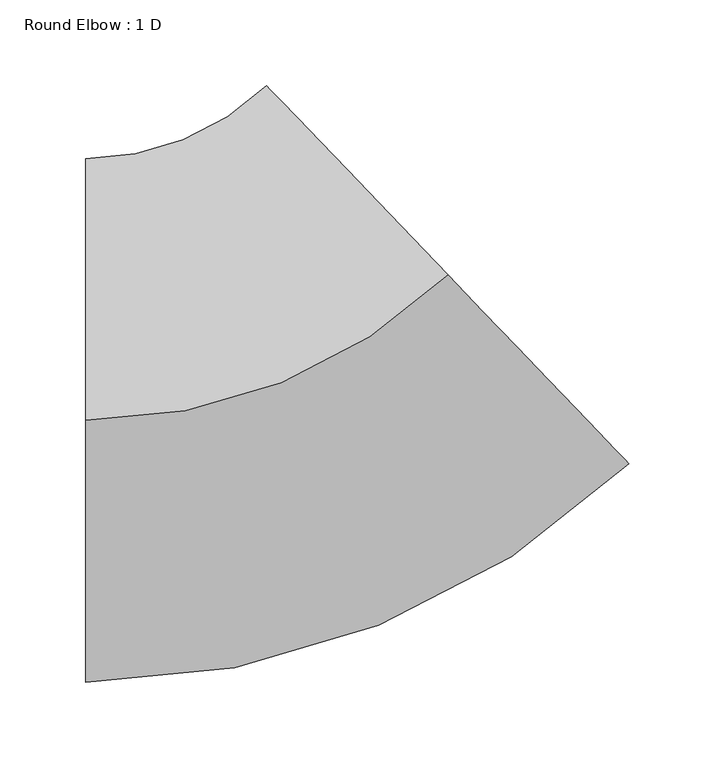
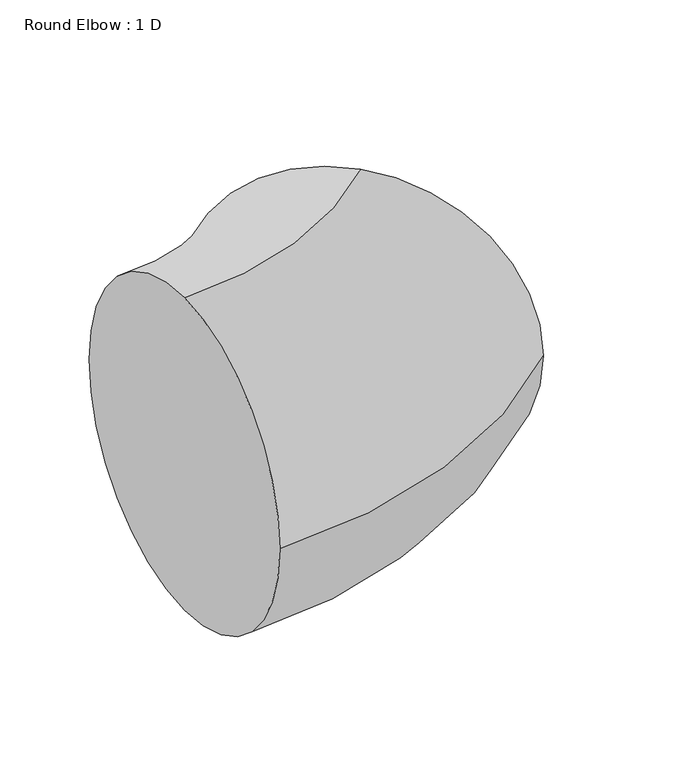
"""IFC4 building model written with IfcOpenShell, lengths in millimetres: duct fitting geometry, Round Elbow : 1 D."""

from ifc_helpers import new_model, si_unit, point, frame, origin, place, context, project, spatial, circle_curve, ellipse_curve, trimmed, source, transform, mapped, element, save
from ifc_brep_helpers import plane_surface, revolved_surface, advanced_brep


def round_elbow_1_d_ed39a6e1(model_context):
    return source(origin(), model_context, "Body", "AdvancedBrep", [
        advanced_brep(
        [(-122.5489307, 0.0, 152.4), (-122.5489307, 152.4, 0.0), (-122.5489307, 0.0, -152.4), (-122.5489307, -152.4, 0.0), (88.4413053, 84.8314561, 152.4), (193.9364233, -25.1528159, 0.0), (88.4413053, 84.8314561, -152.4), (-17.0538127, 194.815728, 0.0)],
        [
            (0, 1, circle_curve(frame((-122.5489307, 0.0, 0.0), z_axis=(-1.0, 0.0, 0.0), x_axis=(0.0, 1.0, 0.0)), 152.4)),
            (1, 2, circle_curve(frame((-122.5489307, 0.0, 0.0), z_axis=(-1.0, 0.0, 0.0), x_axis=(0.0, 1.0, 0.0)), 152.4)),
            (2, 3, circle_curve(frame((-122.5489307, 0.0, 0.0), z_axis=(-1.0, 0.0, 0.0), x_axis=(0.0, 1.0, 0.0)), 152.4)),
            (3, 0, circle_curve(frame((-122.5489307, 0.0, 0.0), z_axis=(-1.0, 0.0, 0.0), x_axis=(0.0, 1.0, 0.0)), 152.4)),
            (4, 5, circle_curve(frame((88.4413053, 84.8314561, 0.0), z_axis=(0.7216815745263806, 0.692225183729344, 0.0), x_axis=(-0.692225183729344, 0.7216815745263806, 0.0)), 152.4)),
            (5, 6, circle_curve(frame((88.4413053, 84.8314561, 0.0), z_axis=(0.7216815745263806, 0.692225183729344, 0.0), x_axis=(-0.692225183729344, 0.7216815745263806, 0.0)), 152.4)),
            (6, 7, circle_curve(frame((88.4413053, 84.8314561, 0.0), z_axis=(0.7216815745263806, 0.692225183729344, 0.0), x_axis=(-0.692225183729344, 0.7216815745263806, 0.0)), 152.4)),
            (7, 4, circle_curve(frame((88.4413053, 84.8314561, 0.0), z_axis=(0.7216815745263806, 0.692225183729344, 0.0), x_axis=(-0.692225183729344, 0.7216815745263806, 0.0)), 152.4)),
            (7, 1, circle_curve(frame((-122.5489307, 304.8, 0.0), z_axis=(0.0, 0.0, -1.0), x_axis=(0.0, -1.0, 0.0)), 152.4)),
            (0, 4, circle_curve(frame((-122.5489307, 304.8, 152.4), z_axis=(0.0, 0.0, 1.0), x_axis=(0.0, -1.0, 0.0)), 304.8)),
            (6, 2, circle_curve(frame((-122.5489307, 304.8, -152.4), z_axis=(0.0, 0.0, -1.0), x_axis=(0.0, -1.0, 0.0)), 304.8)),
            (5, 3, circle_curve(frame((-122.5489307, 304.8, 0.0), z_axis=(0.0, 0.0, -1.0), x_axis=(0.0, -1.0, 0.0)), 457.2)),
        ],
        [
            plane_surface(frame((-122.5489307, 0.0, 0.0), z_axis=(-1.0, 0.0, 0.0), x_axis=(0.0, 0.0, 1.0))),
            plane_surface(frame((88.4413053, 84.8314561, 0.0), z_axis=(0.7216815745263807, 0.692225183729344, 0.0), x_axis=(0.0, 0.0, 1.0))),
            revolved_surface(trimmed(ellipse_curve(frame((-122.5489307, 0.0, 0.0), z_axis=(-1.0, 0.0, 0.0), x_axis=(0.0, 1.0, 0.0)), 152.4, 152.4), [point((-122.5489307, 0.0, 152.4))], [point((-122.5489307, 152.4, 0.0))], True, "CARTESIAN"), (-122.5489307, 304.8, 0.0), (0.0, 0.0, 1.0)),
            revolved_surface(trimmed(ellipse_curve(frame((-122.5489307, 0.0, 0.0), z_axis=(-1.0, 0.0, 0.0), x_axis=(0.0, 1.0, 0.0)), 152.4, 152.4), [point((-122.5489307, 152.4, 0.0))], [point((-122.5489307, 0.0, -152.4))], True, "CARTESIAN"), (-122.5489307, 304.8, 0.0), (0.0, 0.0, 1.0)),
            revolved_surface(trimmed(ellipse_curve(frame((-122.5489307, 0.0, 0.0), z_axis=(-1.0, 0.0, 0.0), x_axis=(0.0, 1.0, 0.0)), 152.4, 152.4), [point((-122.5489307, 0.0, -152.4))], [point((-122.5489307, -152.4, 0.0))], True, "CARTESIAN"), (-122.5489307, 304.8, 0.0), (0.0, 0.0, 1.0)),
            revolved_surface(trimmed(ellipse_curve(frame((-122.5489307, 0.0, 0.0), z_axis=(-1.0, 0.0, 0.0), x_axis=(0.0, 1.0, 0.0)), 152.4, 152.4), [point((-122.5489307, -152.4, 0.0))], [point((-122.5489307, 0.0, 152.4))], True, "CARTESIAN"), (-122.5489307, 304.8, 0.0), (0.0, 0.0, 1.0)),
        ],
        [
            (0, [[1, 2, 3, 4]]),
            (1, [[5, 6, 7, 8]]),
            (2, [[9, -1, 10, -8]]),
            (3, [[11, -2, -9, -7]]),
            (4, [[12, -3, -11, -6]]),
            (5, [[-10, -4, -12, -5]]),
        ],
    ),
    ])


if __name__ == "__main__":
    model = new_model("IFC4")
    model_context = context("Model", 3, world=origin())
    ifc_project = project(units=[si_unit("LENGTHUNIT", "METRE", prefix="MILLI")], contexts=[model_context])
    site = spatial("IfcSite", under=ifc_project)
    building = spatial("IfcBuilding", under=site)
    placement = place(None, origin())
    round_elbow_1_d_shape = round_elbow_1_d_ed39a6e1(model_context)
    element("IfcDuctFitting", 1, ObjectType="Round Elbow : 1 D", at=placement, inside=building, context=model_context, shape_type="MappedRepresentation", body=[
        mapped(round_elbow_1_d_shape, transform((0.0, 0.0, 0.0), x_axis=(1.0, 0.0, 0.0), y_axis=(0.0, 1.0, 0.0), z_axis=(0.0, 0.0, 1.0))),
    ])
    save(model, "model.ifc")
